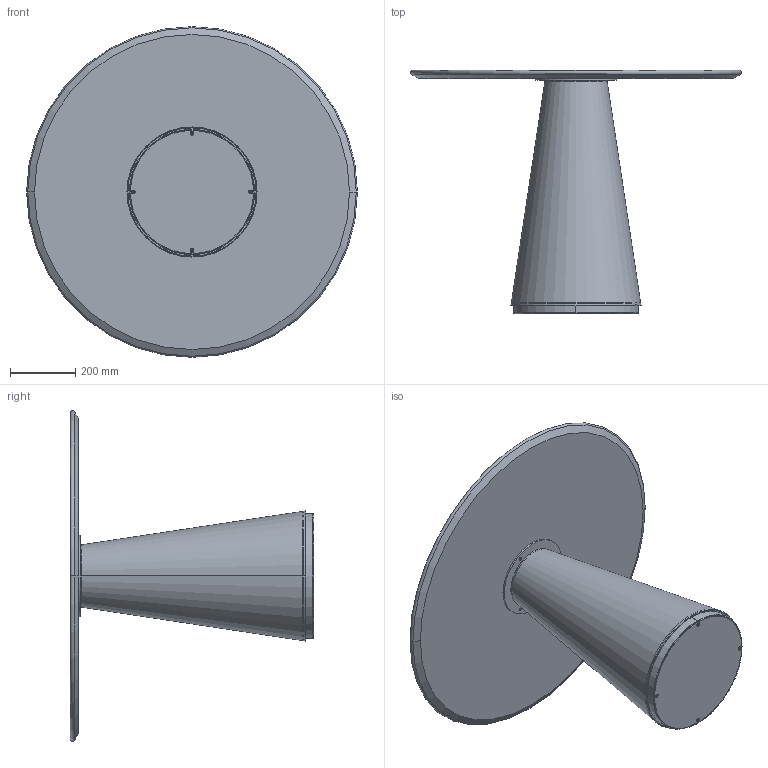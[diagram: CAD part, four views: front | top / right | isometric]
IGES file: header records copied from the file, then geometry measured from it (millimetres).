
Start section: SolidWorks IGES file using analytic representation for surfaces
Global section: file name: Y:\eforma\TECNICO\SOLIDWORKS\E-FORMA\5-TAVOLINI BISTRO\TED\02 parts\TE30A.IGS; native system: SolidWorks 2022; preprocessor: SolidWorks 2022; author: eforma.tech; date: 240808.094931; units: millimetre
Bounding box: 1017 x 748.5 x 1016.79 mm (x, y, z)
Volume: 24251150 mm3; surface area: 5086711.7 mm2
Topology: 15 solids, 15 shells, 373 faces, 785 edges, 436 vertices
Faces by surface type: revolution 195, plane 178
